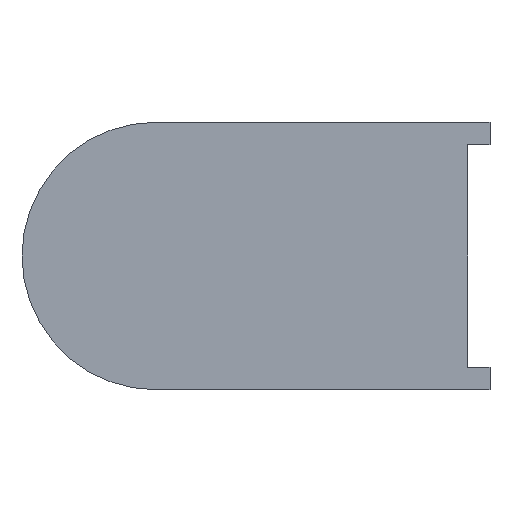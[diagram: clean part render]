
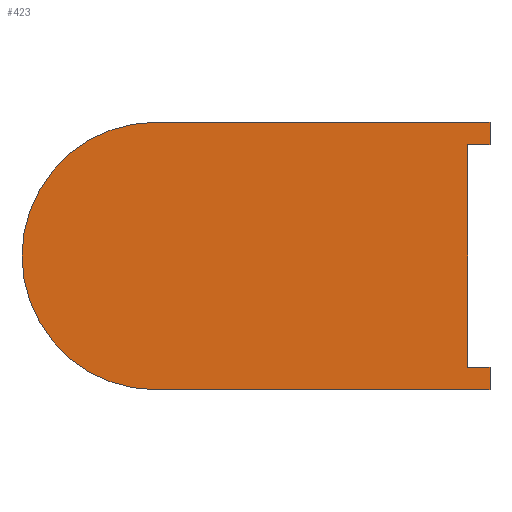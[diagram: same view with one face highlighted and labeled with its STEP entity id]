
A CAD part, front view. The second image highlights one B-rep face of the part: STEP entity #423.
In plain terms, the highlighted planar face has unit normal (0, -1, 0).
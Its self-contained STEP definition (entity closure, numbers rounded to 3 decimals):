
#1 = EDGE_CURVE ( 'NONE', #391, #368, #183, .T. ) ;
#4 = CARTESIAN_POINT ( 'NONE',  ( 0., 0., 50. ) ) ;
#7 = DIRECTION ( 'NONE',  ( 0., 0., 1. ) ) ;
#22 = VERTEX_POINT ( 'NONE', #281 ) ;
#28 = LINE ( 'NONE', #219, #257 ) ;
#30 = EDGE_CURVE ( 'NONE', #22, #37, #28, .T. ) ;
#37 = VERTEX_POINT ( 'NONE', #150 ) ;
#44 = CARTESIAN_POINT ( 'NONE',  ( 0., 0., -60. ) ) ;
#52 = EDGE_CURVE ( 'NONE', #278, #22, #375, .T. ) ;
#60 = VECTOR ( 'NONE', #355, 1000. ) ;
#62 = VECTOR ( 'NONE', #378, 1000. ) ;
#78 = PLANE ( 'NONE',  #439 ) ;
#81 = CARTESIAN_POINT ( 'NONE',  ( 150., 0., 60. ) ) ;
#86 = EDGE_CURVE ( 'NONE', #368, #360, #149, .T. ) ;
#91 = VECTOR ( 'NONE', #217, 1000. ) ;
#97 = VERTEX_POINT ( 'NONE', #343 ) ;
#105 = EDGE_CURVE ( 'NONE', #37, #132, #323, .T. ) ;
#108 = DIRECTION ( 'NONE',  ( 0., 0., 1. ) ) ;
#113 = DIRECTION ( 'NONE',  ( 1., 0., 0. ) ) ;
#121 = CARTESIAN_POINT ( 'NONE',  ( 0., 0., 0. ) ) ;
#132 = VERTEX_POINT ( 'NONE', #342 ) ;
#146 = CARTESIAN_POINT ( 'NONE',  ( 0., 0., -60. ) ) ;
#149 = LINE ( 'NONE', #179, #288 ) ;
#150 = CARTESIAN_POINT ( 'NONE',  ( 150., 0., -50. ) ) ;
#152 = ORIENTED_EDGE ( 'NONE', *, *, #304, .F. ) ;
#160 = ORIENTED_EDGE ( 'NONE', *, *, #86, .T. ) ;
#167 = ORIENTED_EDGE ( 'NONE', *, *, #407, .F. ) ;
#172 = VECTOR ( 'NONE', #113, 1000. ) ;
#179 = CARTESIAN_POINT ( 'NONE',  ( 150., 0., 0. ) ) ;
#182 = LINE ( 'NONE', #320, #172 ) ;
#183 = LINE ( 'NONE', #4, #91 ) ;
#185 = CARTESIAN_POINT ( 'NONE',  ( 140., 0., 0. ) ) ;
#195 = DIRECTION ( 'NONE',  ( 0., 1., 0. ) ) ;
#196 = EDGE_LOOP ( 'NONE', ( #434, #202, #369, #356, #160, #152, #167, #293 ) ) ;
#202 = ORIENTED_EDGE ( 'NONE', *, *, #105, .T. ) ;
#217 = DIRECTION ( 'NONE',  ( 1., 0., 0. ) ) ;
#219 = CARTESIAN_POINT ( 'NONE',  ( 150., 0., 0. ) ) ;
#257 = VECTOR ( 'NONE', #7, 1000. ) ;
#260 = DIRECTION ( 'NONE',  ( 0., 0., 1. ) ) ;
#278 = VERTEX_POINT ( 'NONE', #44 ) ;
#281 = CARTESIAN_POINT ( 'NONE',  ( 150., 0., -60. ) ) ;
#288 = VECTOR ( 'NONE', #108, 1000. ) ;
#293 = ORIENTED_EDGE ( 'NONE', *, *, #52, .T. ) ;
#304 = EDGE_CURVE ( 'NONE', #97, #360, #182, .T. ) ;
#318 = CARTESIAN_POINT ( 'NONE',  ( 150., 0., 50. ) ) ;
#320 = CARTESIAN_POINT ( 'NONE',  ( 0., 0., 60. ) ) ;
#323 = LINE ( 'NONE', #408, #359 ) ;
#326 = DIRECTION ( 'NONE',  ( 0., 0., 1. ) ) ;
#338 = CIRCLE ( 'NONE', #367, 60. ) ;
#339 = LINE ( 'NONE', #185, #60 ) ;
#340 = DIRECTION ( 'NONE',  ( -1., 0., 0. ) ) ;
#342 = CARTESIAN_POINT ( 'NONE',  ( 140., 0., -50. ) ) ;
#343 = CARTESIAN_POINT ( 'NONE',  ( 0., 0., 60. ) ) ;
#353 = FACE_OUTER_BOUND ( 'NONE', #196, .T. ) ;
#355 = DIRECTION ( 'NONE',  ( 0., 0., 1. ) ) ;
#356 = ORIENTED_EDGE ( 'NONE', *, *, #1, .T. ) ;
#358 = DIRECTION ( 'NONE',  ( 0., 1., 0. ) ) ;
#359 = VECTOR ( 'NONE', #340, 1000. ) ;
#360 = VERTEX_POINT ( 'NONE', #81 ) ;
#364 = EDGE_CURVE ( 'NONE', #132, #391, #339, .T. ) ;
#367 = AXIS2_PLACEMENT_3D ( 'NONE', #121, #358, #260 ) ;
#368 = VERTEX_POINT ( 'NONE', #318 ) ;
#369 = ORIENTED_EDGE ( 'NONE', *, *, #364, .T. ) ;
#375 = LINE ( 'NONE', #146, #62 ) ;
#378 = DIRECTION ( 'NONE',  ( 1., 0., 0. ) ) ;
#391 = VERTEX_POINT ( 'NONE', #421 ) ;
#392 = CARTESIAN_POINT ( 'NONE',  ( 0., 0., 0. ) ) ;
#407 = EDGE_CURVE ( 'NONE', #278, #97, #338, .T. ) ;
#408 = CARTESIAN_POINT ( 'NONE',  ( 0., 0., -50. ) ) ;
#421 = CARTESIAN_POINT ( 'NONE',  ( 140., 0., 50. ) ) ;
#423 = ADVANCED_FACE ( 'NONE', ( #353 ), #78, .F. ) ;
#434 = ORIENTED_EDGE ( 'NONE', *, *, #30, .T. ) ;
#439 = AXIS2_PLACEMENT_3D ( 'NONE', #392, #195, #326 ) ;
